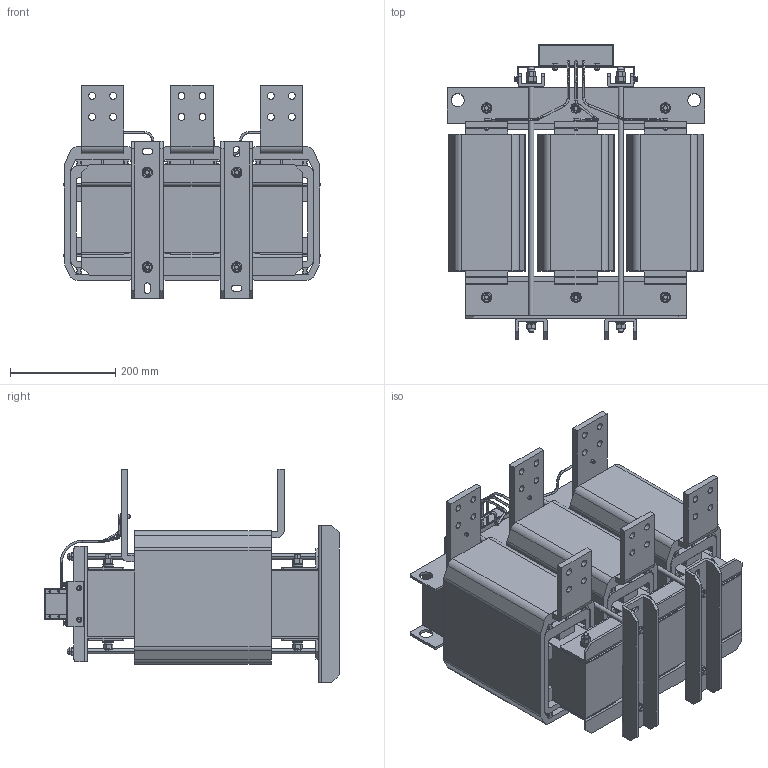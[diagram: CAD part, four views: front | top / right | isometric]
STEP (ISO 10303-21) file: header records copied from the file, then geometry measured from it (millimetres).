
FILE_DESCRIPTION (( 'STEP AP203' ), '1' );
FILE_NAME ('婰錪襝 dU_dT _ IDUDT-1250_1350-6.STEP', '2026-05-08T08:16:10', ( '' ), ( '' ), 'SwSTEP 2.0', 'SolidWorks 2021', '' );
FILE_SCHEMA (( 'CONFIG_CONTROL_DESIGN' ));
Length unit declared in the file: millimetre
Products named in the file (100): M5℅10坋趼蹟邡; DVT-1320A-线圈_40; DVT-1320A-线圈_22; M10ﾂﾝﾄｸ+ｵｯ+ﾋｫﾆｽ_8; DVT-1320A-线圈_23; DVT-U形压条-220×50×25; M5｡ﾁ15ﾂﾝﾋｨ+1ﾆｽ_1; M10ﾂﾝﾄｸ+ｵｯ+ﾋｫﾆｽ; DVT-1320A-线圈_35; DVT-1320A-线圈_15; M10ﾂﾝﾄｸ+ｵｯ+ﾋｫﾆｽ_3; DVT-内母排L-80×12; DVT-1320A-线圈_17; DVT-1320A-线圈_16; 蹟裝M10℅485; M10ﾂﾝﾄｸ+ｵｯ+ﾆｽ_3; M5｡ﾁ15ﾂﾝﾋｨ+1ﾆｽ; 电容盒 SKS-0092.601-LJ-A2; 电容支撑架; DVT-1320A-线圈_2; plain washers--product grade c gb_GB_FASTENER_WASHER_SMWC 10; M10ﾂﾝﾄｸ+ｵｯ+ﾆｽ_4; M5｡ﾁ10ﾂﾝﾋｨ+1ﾆｽ_3; 0092-电容引线; DVT-1320A-线圈; DVT-1320A-线圈_13; DVT-1320A-线圈_4; DVT-1320A-线圈_7; M10ﾂﾝﾄｸ+ｵｯ+ﾋｫﾆｽ_11; DVT-1320A-线圈_29; M10ﾂﾝﾄｸ+ｵｯ+ﾋｫﾆｽ_7; DVT-1320A-线圈_31; 嶺啣沭2.0-80-440; DVT-1320A-线圈_38; 0092-电容引线_1; M5｡ﾁ10ﾂﾝﾋｨ+1ﾆｽ_4; M10ﾂﾝﾄｸ+ｵｯ+ﾆｽ_5; M10ﾂﾝﾄｸ+ｵｯ+ﾆｽ_7; Uﾐﾎｵﾗｽﾅ300｡ﾁ60｡ﾁ40｣ｨ6mmｺｩ; M10ﾂﾝﾄｸ+ｵｯ+ﾋｫﾆｽ_9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
Assembly tree (227 placements, depth 3):
  婰錪襝 dU_dT _ IDUDT-1250_1350-6
    三相铁芯420-80-126-H440
    嶺啣沭2.0-80-440  x6
    狟標璃-SKS-1434.406-LJ-A0  x2
    Uﾐﾎｵﾗｽﾅ300｡ﾁ60｡ﾁ40｣ｨ6mmｺｩ  x2
    蹟裝M10℅185  x6
    蹟裝M10℅485  x4
    奻標璃-SKS-1434.405-LJ-A0  x2
    M10ﾂﾝﾄｸ+ｵｯ+ﾋｫﾆｽ
      plain washers--product grade c gb_GB_FASTENER_WASHER_SMWC 10  x2
      spring lock washers--normal type gb_GB_FASTENER_WASHER_SW 10
      hexagon nuts grade c gb_GB_FASTENER_NUT_SNC1 M10-N
    M10ﾂﾝﾄｸ+ｵｯ+ﾋｫﾆｽ_1
      plain washers--product grade c gb_GB_FASTENER_WASHER_SMWC 10  x2
      spring lock washers--normal type gb_GB_FASTENER_WASHER_SW 10
      hexagon nuts grade c gb_GB_FASTENER_NUT_SNC1 M10-N
    M10ﾂﾝﾄｸ+ｵｯ+ﾋｫﾆｽ_2
      plain washers--product grade c gb_GB_FASTENER_WASHER_SMWC 10  x2
      spring lock washers--normal type gb_GB_FASTENER_WASHER_SW 10
      hexagon nuts grade c gb_GB_FASTENER_NUT_SNC1 M10-N
    M10ﾂﾝﾄｸ+ｵｯ+ﾋｫﾆｽ_3
      plain washers--product grade c gb_GB_FASTENER_WASHER_SMWC 10  x2
      spring lock washers--normal type gb_GB_FASTENER_WASHER_SW 10
      hexagon nuts grade c gb_GB_FASTENER_NUT_SNC1 M10-N
    M10ﾂﾝﾄｸ+ｵｯ+ﾆｽ
      plain washers--product grade c gb_GB_FASTENER_WASHER_SMWC 10
      spring lock washers--normal type gb_GB_FASTENER_WASHER_SW 10
      hexagon nuts grade c gb_GB_FASTENER_NUT_SNC1 M10-N
    M10ﾂﾝﾄｸ+ｵｯ+ﾆｽ_1
      plain washers--product grade c gb_GB_FASTENER_WASHER_SMWC 10
      spring lock washers--normal type gb_GB_FASTENER_WASHER_SW 10
      hexagon nuts grade c gb_GB_FASTENER_NUT_SNC1 M10-N
    M10裔簽  x4
    M10ﾂﾝﾄｸ+ｵｯ+ﾆｽ_2
      plain washers--product grade c gb_GB_FASTENER_WASHER_SMWC 10
      spring lock washers--normal type gb_GB_FASTENER_WASHER_SW 10
      hexagon nuts grade c gb_GB_FASTENER_NUT_SNC1 M10-N
    M10ﾂﾝﾄｸ+ｵｯ+ﾆｽ_3
      plain washers--product grade c gb_GB_FASTENER_WASHER_SMWC 10
      spring lock washers--normal type gb_GB_FASTENER_WASHER_SW 10
      hexagon nuts grade c gb_GB_FASTENER_NUT_SNC1 M10-N
    M10ﾂﾝﾄｸ+ｵｯ+ﾆｽ_4
      plain washers--product grade c gb_GB_FASTENER_WASHER_SMWC 10
      spring lock washers--normal type gb_GB_FASTENER_WASHER_SW 10
      hexagon nuts grade c gb_GB_FASTENER_NUT_SNC1 M10-N
    M10ﾂﾝﾄｸ+ｵｯ+ﾆｽ_5
      plain washers--product grade c gb_GB_FASTENER_WASHER_SMWC 10
      spring lock washers--normal type gb_GB_FASTENER_WASHER_SW 10
      hexagon nuts grade c gb_GB_FASTENER_NUT_SNC1 M10-N
    M10ﾂﾝﾄｸ+ｵｯ+ﾆｽ_6
      plain washers--product grade c gb_GB_FASTENER_WASHER_SMWC 10
      spring lock washers--normal type gb_GB_FASTENER_WASHER_SW 10
      hexagon nuts grade c gb_GB_FASTENER_NUT_SNC1 M10-N
    M10ﾂﾝﾄｸ+ｵｯ+ﾆｽ_7
      plain washers--product grade c gb_GB_FASTENER_WASHER_SMWC 10
      spring lock washers--normal type gb_GB_FASTENER_WASHER_SW 10
      hexagon nuts grade c gb_GB_FASTENER_NUT_SNC1 M10-N
    M10ﾂﾝﾄｸ+ｵｯ+ﾋｫﾆｽ_4
      plain washers--product grade c gb_GB_FASTENER_WASHER_SMWC 10  x2
      spring lock washers--normal type gb_GB_FASTENER_WASHER_SW 10
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Bounding box: 490 x 561 x 406 mm (x, y, z)
Volume: 35775743 mm3; surface area: 4921183 mm2
Topology: 194 solids, 194 shells, 6611 faces, 17490 edges, 11491 vertices
Faces by surface type: plane 3716, bspline 1540, cylinder 1107, cone 248
Entity records: 63778 total; most frequent: CARTESIAN_POINT 13516, DIRECTION 7621, ORIENTED_EDGE 7420, EDGE_CURVE 3710, AXIS2_PLACEMENT_3D 2594, VERTEX_POINT 2441, VECTOR 2433, LINE 2433
